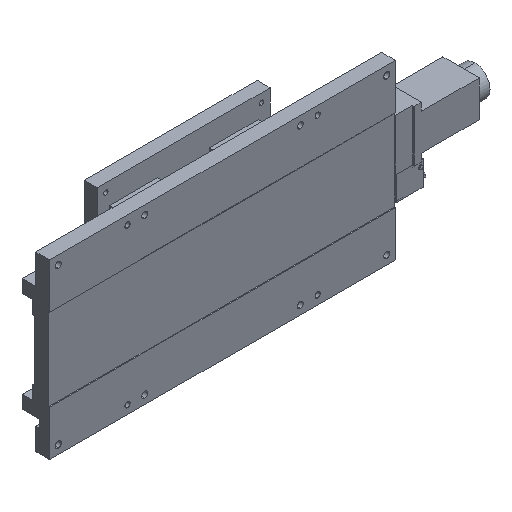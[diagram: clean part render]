
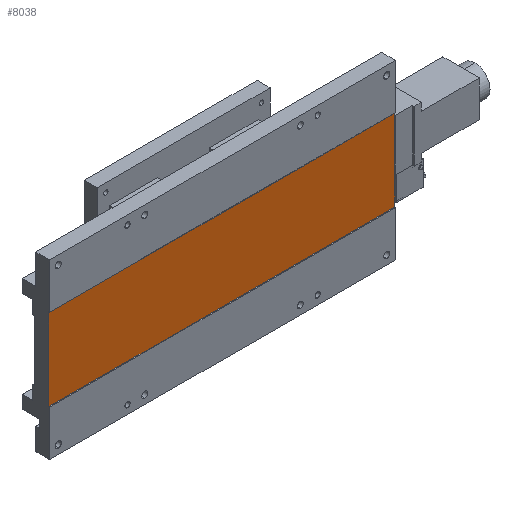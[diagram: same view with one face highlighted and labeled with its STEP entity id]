
A CAD part, isometric view. The second image highlights one B-rep face of the part: STEP entity #8038.
In plain terms, the highlighted planar face has unit normal (0, -1, 0) as drawn and (0, 0, -1) by its records, which use the part's own axes.
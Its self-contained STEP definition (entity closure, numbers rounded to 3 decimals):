
#82 = VECTOR ( 'NONE', #5879, 1000. ) ;
#753 = ORIENTED_EDGE ( 'NONE', *, *, #1670, .T. ) ;
#1234 = VERTEX_POINT ( 'NONE', #1237 ) ;
#1237 = CARTESIAN_POINT ( 'NONE',  ( -200., 47.5, 1. ) ) ;
#1535 = VECTOR ( 'NONE', #14448, 1000. ) ;
#1670 = EDGE_CURVE ( 'NONE', #5094, #11529, #10278, .T. ) ;
#3293 = CARTESIAN_POINT ( 'NONE',  ( -200., -47.5, 1. ) ) ;
#4005 = DIRECTION ( 'NONE',  ( 0., 0., 1. ) ) ;
#4047 = EDGE_CURVE ( 'NONE', #5094, #12238, #12673, .T. ) ;
#4074 = CARTESIAN_POINT ( 'NONE',  ( 200., -47.5, 1. ) ) ;
#4738 = DIRECTION ( 'NONE',  ( -1., 0., 0. ) ) ;
#5094 = VERTEX_POINT ( 'NONE', #4074 ) ;
#5497 = ORIENTED_EDGE ( 'NONE', *, *, #13574, .F. ) ;
#5512 = CARTESIAN_POINT ( 'NONE',  ( 200., 47.5, 1. ) ) ;
#5787 = CARTESIAN_POINT ( 'NONE',  ( 200., -47.5, 1. ) ) ;
#5879 = DIRECTION ( 'NONE',  ( 0., 1., 0. ) ) ;
#6165 = EDGE_CURVE ( 'NONE', #11529, #1234, #13543, .T. ) ;
#8038 = ADVANCED_FACE ( 'NONE', ( #11111 ), #9772, .F. ) ;
#8279 = CARTESIAN_POINT ( 'NONE',  ( 200., -47.5, 1. ) ) ;
#8439 = CARTESIAN_POINT ( 'NONE',  ( 200., 47.5, 1. ) ) ;
#8598 = EDGE_LOOP ( 'NONE', ( #11999, #5497, #10716, #753 ) ) ;
#8731 = CARTESIAN_POINT ( 'NONE',  ( 200., -47.5, 1. ) ) ;
#9253 = CARTESIAN_POINT ( 'NONE',  ( -200., -47.5, 1. ) ) ;
#9326 = LINE ( 'NONE', #5512, #12009 ) ;
#9328 = AXIS2_PLACEMENT_3D ( 'NONE', #8731, #4005, #13203 ) ;
#9772 = PLANE ( 'NONE',  #9328 ) ;
#10202 = VECTOR ( 'NONE', #13799, 1000. ) ;
#10278 = LINE ( 'NONE', #5787, #10202 ) ;
#10716 = ORIENTED_EDGE ( 'NONE', *, *, #4047, .F. ) ;
#11111 = FACE_OUTER_BOUND ( 'NONE', #8598, .T. ) ;
#11529 = VERTEX_POINT ( 'NONE', #9253 ) ;
#11999 = ORIENTED_EDGE ( 'NONE', *, *, #6165, .T. ) ;
#12009 = VECTOR ( 'NONE', #4738, 1000. ) ;
#12238 = VERTEX_POINT ( 'NONE', #8439 ) ;
#12673 = LINE ( 'NONE', #8279, #82 ) ;
#13203 = DIRECTION ( 'NONE',  ( 0., -1., 0. ) ) ;
#13543 = LINE ( 'NONE', #3293, #1535 ) ;
#13574 = EDGE_CURVE ( 'NONE', #12238, #1234, #9326, .T. ) ;
#13799 = DIRECTION ( 'NONE',  ( -1., 0., 0. ) ) ;
#14448 = DIRECTION ( 'NONE',  ( 0., 1., 0. ) ) ;
